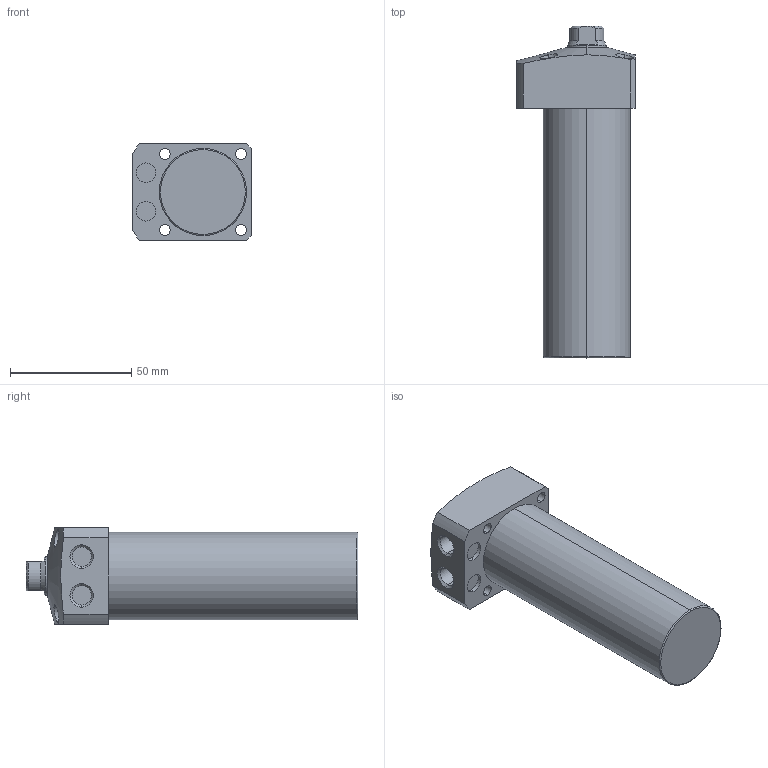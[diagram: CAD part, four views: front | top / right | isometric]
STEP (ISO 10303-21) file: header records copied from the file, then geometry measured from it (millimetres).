
FILE_DESCRIPTION (( 'STEP AP203' ), '1' );
FILE_NAME ('CLL-036CA-080.STEP', '2019-12-20T09:09:28', ( '' ), ( '' ), 'SwSTEP 2.0', 'SolidWorks 2015', '' );
FILE_SCHEMA (( 'CONFIG_CONTROL_DESIGN' ));
Length unit declared in the file: millimetre
Products named in the file (1): CLL-036CA-080
Bounding box: 49 x 137 x 40 mm (x, y, z)
Volume: 146283.7 mm3; surface area: 21824.5 mm2
Topology: 1 solids, 1 shells, 72 faces, 166 edges, 105 vertices
Faces by surface type: cylinder 34, plane 22, cone 14, torus 2
Entity records: 2453 total; most frequent: CARTESIAN_POINT 708, DIRECTION 364, ORIENTED_EDGE 328, EDGE_CURVE 164, AXIS2_PLACEMENT_3D 151, VERTEX_POINT 105, EDGE_LOOP 91, CIRCLE 78
